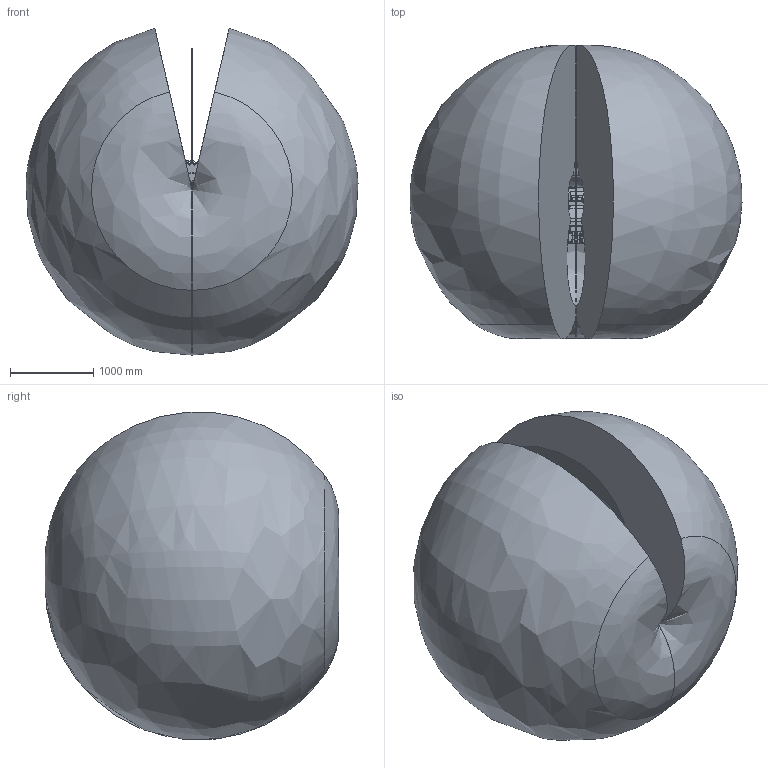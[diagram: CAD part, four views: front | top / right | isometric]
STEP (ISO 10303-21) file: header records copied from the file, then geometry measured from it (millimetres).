
FILE_DESCRIPTION((''),'2;1');
FILE_NAME('R20-2000_ASM','2024-04-30T09:23:26',('zty'),(''),'CREO PARAMETRIC BY PTC INC, 2018260','CREO PARAMETRIC BY PTC INC, 2018260','');
FILE_SCHEMA(('CONFIG_CONTROL_DESIGN','SHAPE_APPEARANCE_LAYERS_GROUPS'));
Products named in the file (11): R20-2000_BASE; R20-2000_JOINT1; R20-2000_JOINT2; R20-2000_JOINT3; R20-2000_JOINT4; R20-2000_JOINT5; R20-2000_JOINT6; R20-2000_CABLE; R20-2000_RANGE; R20-2000_RANGE_2; R20-2000_ASM
Assembly tree (10 placements, depth 2):
  R20-2000_ASM
    R20-2000_BASE
    R20-2000_JOINT1
    R20-2000_JOINT2
    R20-2000_JOINT3
    R20-2000_JOINT4
    R20-2000_JOINT5
    R20-2000_JOINT6
    R20-2000_CABLE
    R20-2000_RANGE
    R20-2000_RANGE_2
Bounding box: 3999.2 x 3540.75 x 3941.62 mm (x, y, z)
Volume: 28716828838.1 mm3; surface area: 77062744.6 mm2
Topology: 10 solids, 41 shells, 6972 faces, 17421 edges, 10553 vertices
Faces by surface type: cylinder 2088, bspline 1720, plane 1584, torus 957, cone 534, sphere 89
Entity records: 296170 total; most frequent: CARTESIAN_POINT 143415, ORIENTED_EDGE 34428, DIRECTION 28767, EDGE_CURVE 17214, AXIS2_PLACEMENT_3D 11706, VERTEX_POINT 10551, EDGE_LOOP 7323, FACE_OUTER_BOUND 6972
